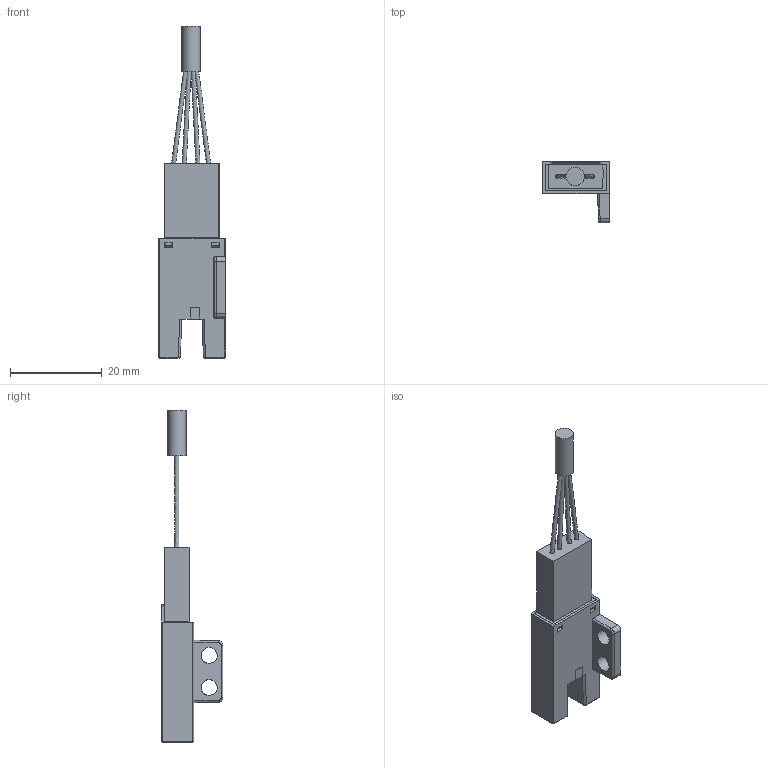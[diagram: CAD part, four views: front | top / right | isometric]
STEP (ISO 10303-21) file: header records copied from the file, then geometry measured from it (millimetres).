
FILE_DESCRIPTION(/* description */ (''),/* implementation_level */ '2;1');
FILE_NAME(/* name */ '302-接插件.stp',/* time_stamp */ '2016-12-22T15:38:32+08:00',/* author */ (''),/* organization */ (''),/* preprocessor_version */ 'ST-DEVELOPER v16',/* originating_system */ 'SIEMENS PLM Software NX 10.0',/* authorisation */ '');
FILE_SCHEMA (('AP203_CONFIGURATION_CONTROLLED_3D_DESIGN_OF_MECHANICAL_PARTS_AND_ASSEMBLIES_MIM_LF { 1 0 10303 403 2 1 2}'));
Length unit declared in the file: millimetre
Products named in the file (1): Gavi0C983A09kato
Bounding box: 14.5 x 13.5 x 72.5 mm (x, y, z)
Volume: 2322.8 mm3; surface area: 5183.5 mm2
Topology: 12 solids, 13 shells, 530 faces, 1428 edges, 942 vertices
Faces by surface type: plane 442, cylinder 73, sphere 6, extrusion 4, cone 3, bspline 2
Full cylindrical faces by diameter (mm): 0.8 x4, 1.5 x2, 4 x1
Entity records: 16543 total; most frequent: CARTESIAN_POINT 3034, ORIENTED_EDGE 2806, DIRECTION 2631, EDGE_CURVE 1403, VECTOR 1211, LINE 1207, VERTEX_POINT 934, AXIS2_PLACEMENT_3D 710
